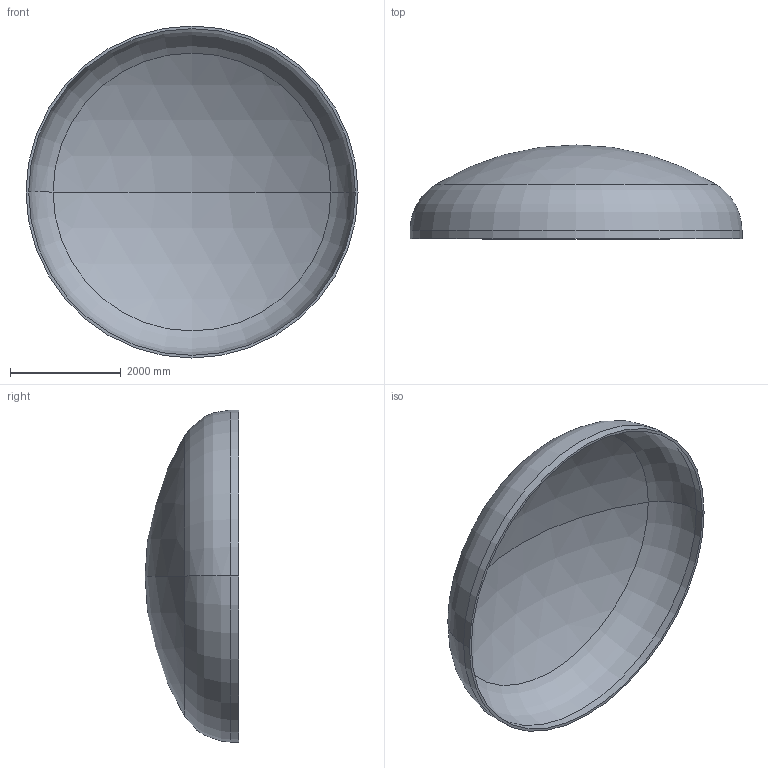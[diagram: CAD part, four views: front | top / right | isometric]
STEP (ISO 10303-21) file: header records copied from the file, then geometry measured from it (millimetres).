
FILE_DESCRIPTION (( 'STEP AP203' ), '1' );
FILE_NAME ('DIN 28013 Korbbogenform_-_Boden DIN 28013 - 6000 x 150 - I - s=48.step', '2016-07-04T10:37:19', ( '' ), ( '' ), 'SwSTEP 2.0', 'SolidWorks 2013', '' );
FILE_SCHEMA (( 'CONFIG_CONTROL_DESIGN' ));
Length unit declared in the file: millimetre
Products named in the file (1): DIN 28013 Korbbogenform_-_Boden DIN 28013 - 6000 x 150 - I - s=48
Bounding box: 6000 x 1695.44 x 6000 mm (x, y, z)
Volume: 1994914741.8 mm3; surface area: 84023782.1 mm2
Topology: 1 solids, 1 shells, 13 faces, 24 edges, 14 vertices
Faces by surface type: torus 4, cylinder 4, sphere 4, plane 1
Entity records: 407 total; most frequent: DIRECTION 72, CARTESIAN_POINT 52, ORIENTED_EDGE 48, AXIS2_PLACEMENT_3D 34, EDGE_CURVE 24, CIRCLE 20, VERTEX_POINT 14, EDGE_LOOP 14
